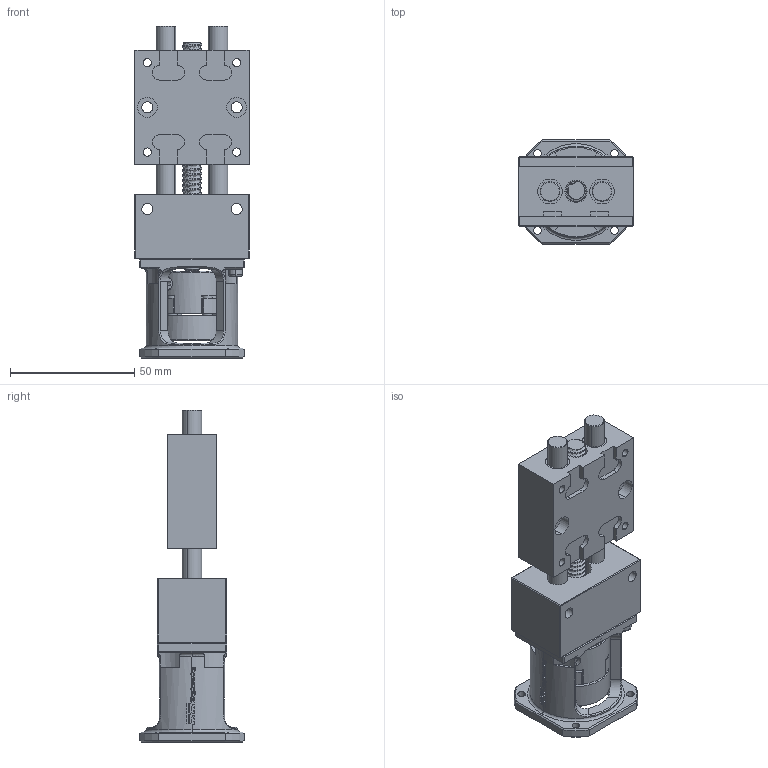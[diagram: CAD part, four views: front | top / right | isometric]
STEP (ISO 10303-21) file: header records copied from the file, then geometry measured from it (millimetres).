
FILE_DESCRIPTION (( 'STEP AP203' ), '1' );
FILE_NAME ('MPT2408-AB-B.STEP', '2015-12-11T10:18:27', ( '' ), ( '' ), 'SwSTEP 2.0', 'SolidWorks 2014', '' );
FILE_SCHEMA (( 'CONFIG_CONTROL_DESIGN' ));
Length unit declared in the file: millimetre
Products named in the file (3): MPT2408-000-01-Festteil-AK; MPT08-000-02-Schlitten-komplett; MPT2408-AB-B
Assembly tree (2 placements, depth 2):
  MPT2408-AB-B
    MPT2408-000-01-Festteil-AK
    MPT08-000-02-Schlitten-komplett
Bounding box: 46 x 42 x 133.8 mm (x, y, z)
Volume: 99168.1 mm3; surface area: 43032.1 mm2
Topology: 2 solids, 23 shells, 1366 faces, 3675 edges, 2387 vertices
Faces by surface type: cylinder 515, plane 378, bspline 321, cone 129, torus 23
Entity records: 70675 total; most frequent: CARTESIAN_POINT 39866, ORIENTED_EDGE 7294, DIRECTION 4955, EDGE_CURVE 3647, VERTEX_POINT 2387, AXIS2_PLACEMENT_3D 1866, EDGE_LOOP 1502, ADVANCED_FACE 1366
